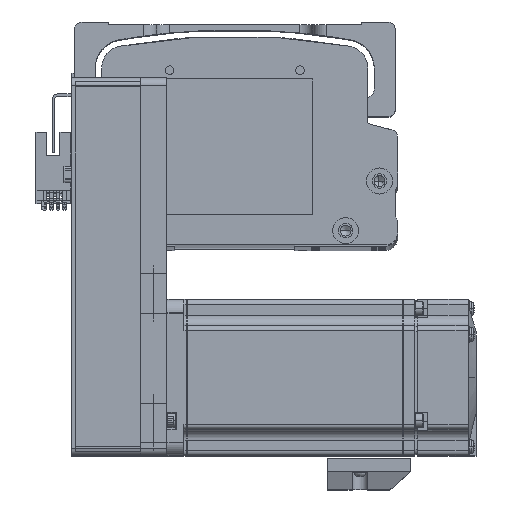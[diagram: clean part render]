
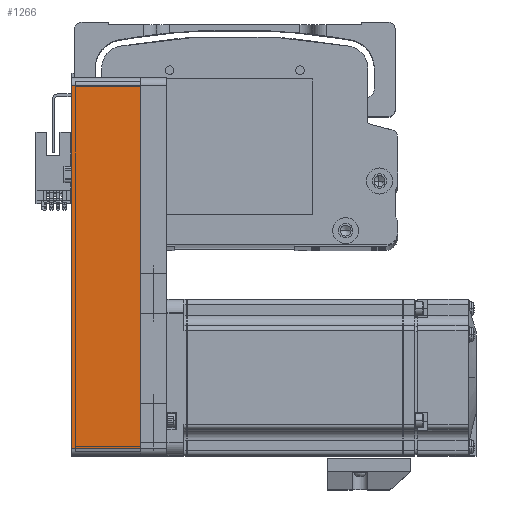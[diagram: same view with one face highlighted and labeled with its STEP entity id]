
A CAD part, top view. The second image highlights one B-rep face of the part: STEP entity #1266.
In plain terms, the highlighted planar face has unit normal (0, 0, 1) as drawn and (0, 1, 0) by its records, which use the part's own axes.
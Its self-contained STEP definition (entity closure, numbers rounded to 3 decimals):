
#302 = VERTEX_POINT ( 'NONE', #70251 ) ;
#1128 = VERTEX_POINT ( 'NONE', #3495 ) ;
#1266 = ADVANCED_FACE ( 'NONE', ( #80303 ), #82757, .F. ) ;
#3495 = CARTESIAN_POINT ( 'NONE',  ( 69.5, 30., 0. ) ) ;
#3793 = VERTEX_POINT ( 'NONE', #80556 ) ;
#4133 = DIRECTION ( 'NONE',  ( -1., 0., 0. ) ) ;
#4428 = AXIS2_PLACEMENT_3D ( 'NONE', #24947, #70120, #31492 ) ;
#15222 = VECTOR ( 'NONE', #29270, 1000. ) ;
#16473 = LINE ( 'NONE', #64688, #48813 ) ;
#19572 = ORIENTED_EDGE ( 'NONE', *, *, #21243, .F. ) ;
#21243 = EDGE_CURVE ( 'NONE', #3793, #81135, #43979, .T. ) ;
#23056 = ORIENTED_EDGE ( 'NONE', *, *, #68374, .T. ) ;
#24947 = CARTESIAN_POINT ( 'NONE',  ( 72.5, 30., 26.5 ) ) ;
#26795 = VECTOR ( 'NONE', #49622, 1000. ) ;
#28211 = VECTOR ( 'NONE', #4133, 1000. ) ;
#29270 = DIRECTION ( 'NONE',  ( 0., 0., 1. ) ) ;
#29611 = CARTESIAN_POINT ( 'NONE',  ( 72.5, 30., 0. ) ) ;
#31492 = DIRECTION ( 'NONE',  ( 1., 0., 0. ) ) ;
#34500 = ORIENTED_EDGE ( 'NONE', *, *, #75231, .T. ) ;
#38988 = DIRECTION ( 'NONE',  ( 0., 0., -1. ) ) ;
#42646 = EDGE_CURVE ( 'NONE', #302, #81135, #49606, .T. ) ;
#43979 = LINE ( 'NONE', #75283, #26795 ) ;
#48813 = VECTOR ( 'NONE', #38988, 1000. ) ;
#49606 = LINE ( 'NONE', #61468, #15222 ) ;
#49622 = DIRECTION ( 'NONE',  ( -1., 0., 0. ) ) ;
#57338 = CARTESIAN_POINT ( 'NONE',  ( -69.5, 30., 26.5 ) ) ;
#61468 = CARTESIAN_POINT ( 'NONE',  ( -69.5, 30., 26.5 ) ) ;
#62257 = ORIENTED_EDGE ( 'NONE', *, *, #42646, .T. ) ;
#64688 = CARTESIAN_POINT ( 'NONE',  ( 69.5, 30., 26.5 ) ) ;
#68374 = EDGE_CURVE ( 'NONE', #1128, #302, #79689, .T. ) ;
#70120 = DIRECTION ( 'NONE',  ( 0., -1., 0. ) ) ;
#70251 = CARTESIAN_POINT ( 'NONE',  ( -69.5, 30., 0. ) ) ;
#72833 = EDGE_LOOP ( 'NONE', ( #23056, #62257, #19572, #34500 ) ) ;
#75231 = EDGE_CURVE ( 'NONE', #3793, #1128, #16473, .T. ) ;
#75283 = CARTESIAN_POINT ( 'NONE',  ( 72.5, 30., 26.5 ) ) ;
#79689 = LINE ( 'NONE', #29611, #28211 ) ;
#80303 = FACE_OUTER_BOUND ( 'NONE', #72833, .T. ) ;
#80556 = CARTESIAN_POINT ( 'NONE',  ( 69.5, 30., 26.5 ) ) ;
#81135 = VERTEX_POINT ( 'NONE', #57338 ) ;
#82757 = PLANE ( 'NONE',  #4428 ) ;
